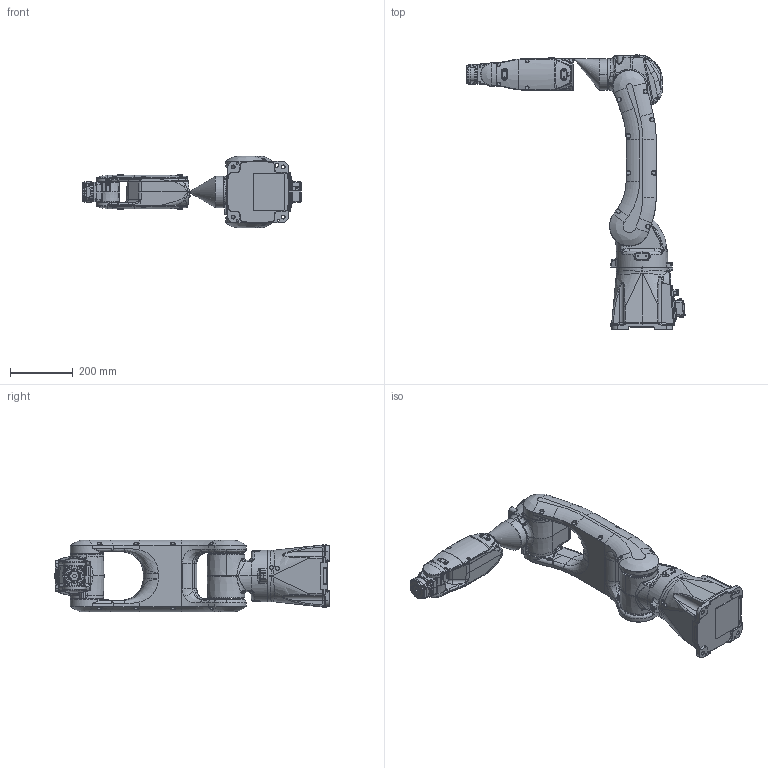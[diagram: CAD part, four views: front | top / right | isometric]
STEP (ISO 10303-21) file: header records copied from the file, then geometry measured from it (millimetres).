
FILE_DESCRIPTION(/* description */ (''),/* implementation_level */ '2;1');
FILE_NAME(/* name */ '000_gp7.stp',/* time_stamp */ '2016-11-02T10:30:09+01:00',/* author */ (''),/* organization */ (''),/* preprocessor_version */ 'ST-DEVELOPER v16',/* originating_system */ 'SIEMENS PLM Software NX 10.0',/* authorisation */ '');
FILE_SCHEMA (('AUTOMOTIVE_DESIGN { 1 0 10303 214 3 1 1 1 }'));
Products named in the file (8): 00_GP8_T_AXIS_ASM; 00_GP8_B_AXIS_ASM; 00_GP7_R_AXIS_ASM; 00_GP7_U_AXIS_ASM; 00_GP7_L_AXIS_ASM; 00_GP7_S_AXIS_ASM; 00_GP8_BASE_ASM; 000_gp7
Assembly tree (7 placements, depth 2):
  000_gp7
    00_GP8_BASE_ASM
    00_GP7_S_AXIS_ASM
    00_GP7_L_AXIS_ASM
    00_GP7_U_AXIS_ASM
    00_GP7_R_AXIS_ASM
    00_GP8_B_AXIS_ASM
    00_GP8_T_AXIS_ASM
Bounding box: 697.33 x 878.15 x 230 mm (x, y, z)
Volume: 20800393.9 mm3; surface area: 1139679.6 mm2
Topology: 8 solids, 35 shells, 4382 faces, 13053 edges, 8732 vertices
Faces by surface type: cylinder 1253, plane 1183, bspline 1034, cone 463, torus 361, sphere 59, extrusion 25, revolution 4
Full cylindrical faces by diameter (mm): 3.3 x3, 4.2 x1, 12 x2, 30 x1, 53.6 x1, 59 x1, 60 x1, 100 x2
Entity records: 233462 total; most frequent: CARTESIAN_POINT 129733, ORIENTED_EDGE 25792, DIRECTION 16060, EDGE_CURVE 12896, VERTEX_POINT 8718, B_SPLINE_CURVE_WITH_KNOTS 6400, AXIS2_PLACEMENT_3D 6383, EDGE_LOOP 4656
